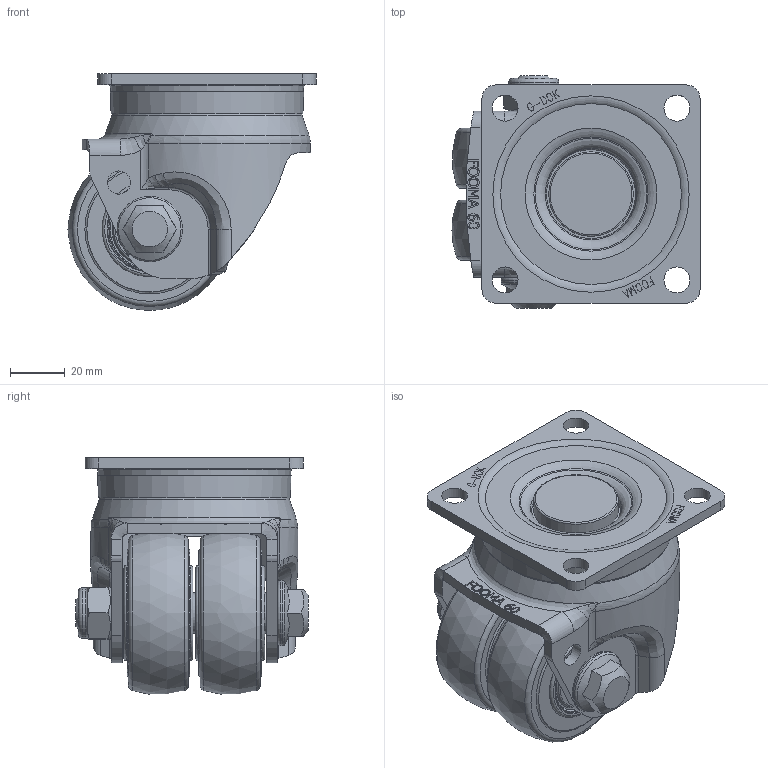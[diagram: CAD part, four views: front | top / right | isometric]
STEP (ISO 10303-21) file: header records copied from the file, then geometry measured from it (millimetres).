
FILE_DESCRIPTION(/* description */ (''),/* implementation_level */ '2;1');
FILE_NAME(/* name */ 'C:\Users\admin\Desktop\JYS\14.제품도면\JS-SERIES\3D\GAJSD-60-ASF-GUD-PJP_HP.stp',/* time_stamp */ '2023-07-25T09:26:38+09:00',/* author */ ('admin'),/* organization */ (''),/* preprocessor_version */ 'ST-DEVELOPER v18.1',/* originating_system */ 'Autodesk Inventor 2021',/* authorisation */ '');
FILE_SCHEMA (('AUTOMOTIVE_DESIGN { 1 0 10303 214 3 1 1 }'));
Length unit declared in the file: millimetre
Products named in the file (1): GAJSD-60-ASF-GUD-PJP_HP
Bounding box: 91 x 85.3 x 86.82 mm (x, y, z)
Volume: 253898.8 mm3; surface area: 58767.6 mm2
Topology: 1 solids, 1 shells, 618 faces, 1651 edges, 1085 vertices
Faces by surface type: plane 384, bspline 103, torus 53, cylinder 52, cone 24, sphere 2
Full cylindrical faces by diameter (mm): 8.5 x1, 9.5 x4, 14.9 x3, 18.5 x1, 24 x1, 28 x1, 31 x3, 35 x4, 61 x1
Entity records: 21090 total; most frequent: CARTESIAN_POINT 6125, ORIENTED_EDGE 3294, DIRECTION 2774, EDGE_CURVE 1647, VERTEX_POINT 1085, LINE 1040, VECTOR 1040, AXIS2_PLACEMENT_3D 867
